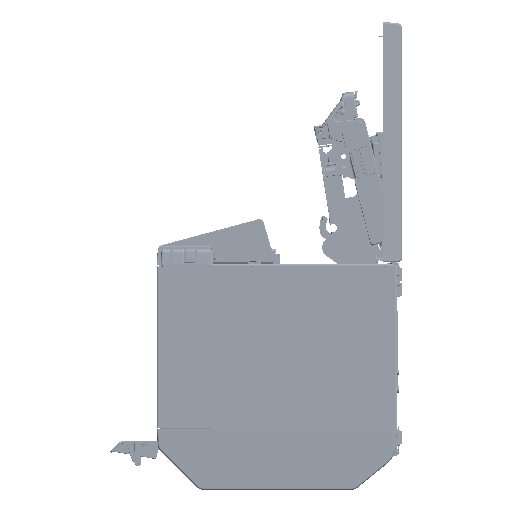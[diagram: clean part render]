
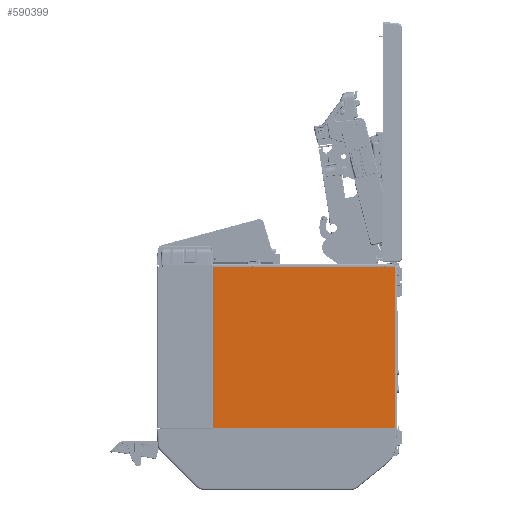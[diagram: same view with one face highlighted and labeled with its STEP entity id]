
A CAD part, left-side view. The second image highlights one B-rep face of the part: STEP entity #590399.
In plain terms, the highlighted planar face has unit normal (-1, 0, 0).
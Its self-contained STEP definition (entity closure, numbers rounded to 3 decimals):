
#585328=DIRECTION('',(0.,-1.,0.));
#585329=VECTOR('',#585328,211.5);
#585330=CARTESIAN_POINT('',(-142.,4.5,96.3));
#585331=LINE('',#585330,#585329);
#585332=DIRECTION('',(0.,1.,0.));
#585333=VECTOR('',#585332,211.5);
#585334=CARTESIAN_POINT('',(-142.,-207.,-91.2));
#585335=LINE('',#585334,#585333);
#585336=CARTESIAN_POINT('',(-142.,4.5,-91.2));
#585337=CARTESIAN_POINT('',(-142.,4.506,-91.2));
#585338=CARTESIAN_POINT('',(-142.,4.518,-91.199));
#585339=CARTESIAN_POINT('',(-142.,4.537,-91.197));
#585340=CARTESIAN_POINT('',(-142.,4.555,-91.193));
#585341=CARTESIAN_POINT('',(-142.,4.572,-91.187));
#585342=CARTESIAN_POINT('',(-142.,4.589,-91.179));
#585343=CARTESIAN_POINT('',(-142.,4.605,-91.17));
#585344=CARTESIAN_POINT('',(-142.,4.621,-91.16));
#585345=CARTESIAN_POINT('',(-142.,4.635,-91.148));
#585346=CARTESIAN_POINT('',(-142.,4.648,-91.135));
#585347=CARTESIAN_POINT('',(-142.,4.66,-91.121));
#585348=CARTESIAN_POINT('',(-142.,4.67,-91.105));
#585349=CARTESIAN_POINT('',(-142.,4.679,-91.089));
#585350=CARTESIAN_POINT('',(-142.,4.687,-91.072));
#585351=CARTESIAN_POINT('',(-142.,4.693,-91.055));
#585352=CARTESIAN_POINT('',(-142.,4.697,-91.037));
#585353=CARTESIAN_POINT('',(-142.,4.699,-91.018));
#585354=CARTESIAN_POINT('',(-142.,4.7,-91.006));
#585355=CARTESIAN_POINT('',(-142.,4.7,-91.));
#585357=CARTESIAN_POINT('',(-142.,4.7,96.1));
#585358=CARTESIAN_POINT('',(-142.,4.7,96.106));
#585359=CARTESIAN_POINT('',(-142.,4.699,96.118));
#585360=CARTESIAN_POINT('',(-142.,4.697,96.137));
#585361=CARTESIAN_POINT('',(-142.,4.693,96.155));
#585362=CARTESIAN_POINT('',(-142.,4.687,96.172));
#585363=CARTESIAN_POINT('',(-142.,4.679,96.189));
#585364=CARTESIAN_POINT('',(-142.,4.67,96.205));
#585365=CARTESIAN_POINT('',(-142.,4.66,96.221));
#585366=CARTESIAN_POINT('',(-142.,4.648,96.235));
#585367=CARTESIAN_POINT('',(-142.,4.635,96.248));
#585368=CARTESIAN_POINT('',(-142.,4.621,96.26));
#585369=CARTESIAN_POINT('',(-142.,4.605,96.27));
#585370=CARTESIAN_POINT('',(-142.,4.589,96.279));
#585371=CARTESIAN_POINT('',(-142.,4.572,96.287));
#585372=CARTESIAN_POINT('',(-142.,4.555,96.293));
#585373=CARTESIAN_POINT('',(-142.,4.537,96.297));
#585374=CARTESIAN_POINT('',(-142.,4.518,96.299));
#585375=CARTESIAN_POINT('',(-142.,4.506,96.3));
#585376=CARTESIAN_POINT('',(-142.,4.5,96.3));
#585387=DIRECTION('',(0.,0.,1.));
#585388=VECTOR('',#585387,187.5);
#585389=CARTESIAN_POINT('',(-142.,-207.,-91.2));
#585390=LINE('',#585389,#585388);
#589566=DIRECTION('',(0.,0.,-1.));
#589567=VECTOR('',#589566,187.1);
#589568=CARTESIAN_POINT('',(-142.,4.7,96.1));
#589569=LINE('',#589568,#589567);
#589575=CARTESIAN_POINT('',(-142.,4.5,96.3));
#589576=CARTESIAN_POINT('',(-142.,-207.,96.3));
#589577=VERTEX_POINT('',#589575);
#589578=VERTEX_POINT('',#589576);
#589579=CARTESIAN_POINT('',(-142.,-207.,-91.2));
#589580=CARTESIAN_POINT('',(-142.,4.5,-91.2));
#589581=VERTEX_POINT('',#589579);
#589582=VERTEX_POINT('',#589580);
#589583=VERTEX_POINT('',#585355);
#589584=VERTEX_POINT('',#585357);
#590380=CARTESIAN_POINT('',(-142.,-209.,96.6));
#590381=DIRECTION('',(1.,0.,0.));
#590382=DIRECTION('',(0.,0.,-1.));
#590383=AXIS2_PLACEMENT_3D('',#590380,#590381,#590382);
#590384=PLANE('',#590383);
#590386=ORIENTED_EDGE('',*,*,#590385,.T.);
#590388=ORIENTED_EDGE('',*,*,#590387,.F.);
#590390=ORIENTED_EDGE('',*,*,#590389,.T.);
#590392=ORIENTED_EDGE('',*,*,#590391,.T.);
#590394=ORIENTED_EDGE('',*,*,#590393,.F.);
#590396=ORIENTED_EDGE('',*,*,#590395,.T.);
#590397=EDGE_LOOP('',(#590386,#590388,#590390,#590392,#590394,#590396));
#590398=FACE_OUTER_BOUND('',#590397,.F.);
#585356=B_SPLINE_CURVE_WITH_KNOTS('',3,(#585336,#585337,#585338,#585339,#585340,
#585341,#585342,#585343,#585344,#585345,#585346,#585347,#585348,#585349,#585350,
#585351,#585352,#585353,#585354,#585355),.UNSPECIFIED.,.F.,.F.,(4,1,1,1,1,1,1,1,
1,1,1,1,1,1,1,1,1,4),(0.,0.059,0.118,
0.176,0.235,0.294,0.353,
0.412,0.471,0.529,0.588,
0.647,0.706,0.765,0.824,
0.882,0.941,1.),.UNSPECIFIED.);
#585377=B_SPLINE_CURVE_WITH_KNOTS('',3,(#585357,#585358,#585359,#585360,#585361,
#585362,#585363,#585364,#585365,#585366,#585367,#585368,#585369,#585370,#585371,
#585372,#585373,#585374,#585375,#585376),.UNSPECIFIED.,.F.,.F.,(4,1,1,1,1,1,1,1,
1,1,1,1,1,1,1,1,1,4),(0.,0.059,0.118,
0.176,0.235,0.294,0.353,
0.412,0.471,0.529,0.588,
0.647,0.706,0.765,0.824,
0.882,0.941,1.),.UNSPECIFIED.);
#590385=EDGE_CURVE('',#589577,#589578,#585331,.T.);
#590387=EDGE_CURVE('',#589581,#589578,#585390,.T.);
#590389=EDGE_CURVE('',#589581,#589582,#585335,.T.);
#590391=EDGE_CURVE('',#589582,#589583,#585356,.T.);
#590393=EDGE_CURVE('',#589584,#589583,#589569,.T.);
#590395=EDGE_CURVE('',#589584,#589577,#585377,.T.);
#590399=ADVANCED_FACE('',(#590398),#590384,.F.);
